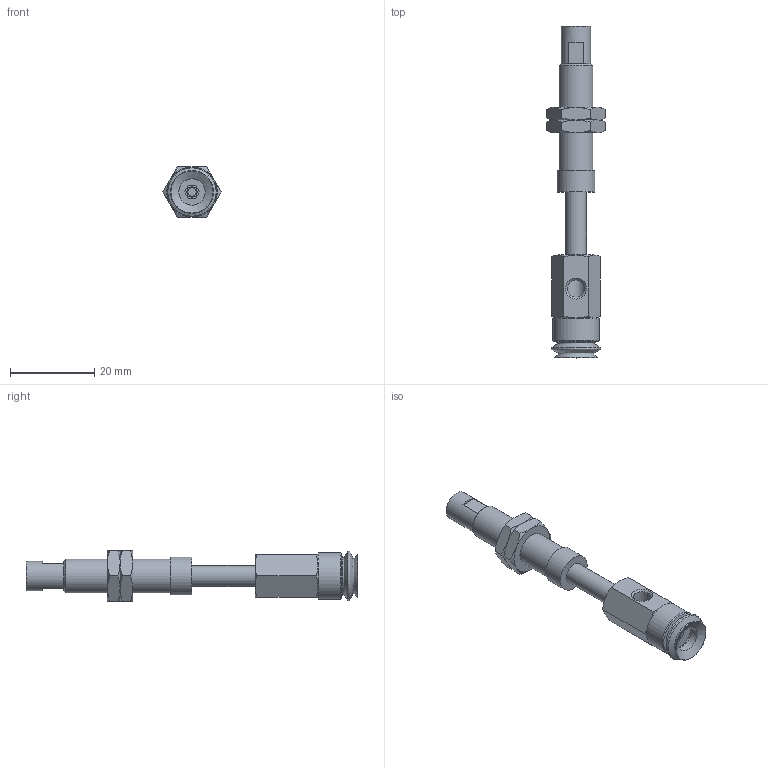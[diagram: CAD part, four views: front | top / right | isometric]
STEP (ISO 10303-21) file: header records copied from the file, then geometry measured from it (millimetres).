
FILE_DESCRIPTION(('STEP AP203'),'1');
FILE_NAME('.stp','2025-04-24T00:38:17',(' '),(' '),'Spatial InterOp 3D',' ',' ');
FILE_SCHEMA(('CONFIG_CONTROL_DESIGN'));
Length unit declared in the file: millimetre
Products named in the file (7): BNABPJYS-10-15-※; Adapter-10-NAPJ; CONNECTOR_S-10-15; NUT-NAPJ-10-15-s; NAPJTS-10-15-FBODY; NAPJTS-10-15-MBODY; BPJG-10-※
Assembly tree (7 placements, depth 2):
  BNABPJYS-10-15-※
    Adapter-10-NAPJ
    CONNECTOR_S-10-15
    NUT-NAPJ-10-15-s  x2
    NAPJTS-10-15-FBODY
    NAPJTS-10-15-MBODY
    BPJG-10-※
Bounding box: 13.86 x 79 x 12 mm (x, y, z)
Volume: 4372.9 mm3; surface area: 5357.5 mm2
Topology: 7 solids, 7 shells, 136 faces, 288 edges, 175 vertices
Faces by surface type: plane 57, cone 53, cylinder 19, torus 7
Full cylindrical faces by diameter (mm): 2 x1, 2.5 x1, 4.134 x3, 4.6 x1, 5 x4, 6.266 x1, 7 x1, 7.188 x2, 7.8 x1, 8 x2, 9 x1, 11 x1
Entity records: 3286 total; most frequent: CARTESIAN_POINT 735, DIRECTION 468, ORIENTED_EDGE 378, AXIS2_PLACEMENT_3D 206, EDGE_CURVE 189, EDGE_LOOP 174, FACE_OUTER_BOUND 138, VERTEX_POINT 137
